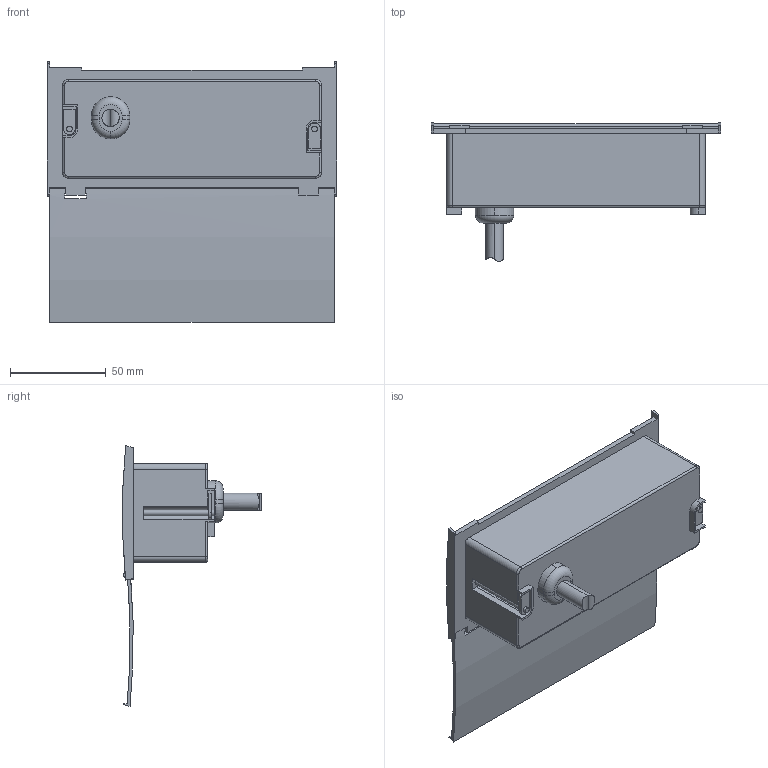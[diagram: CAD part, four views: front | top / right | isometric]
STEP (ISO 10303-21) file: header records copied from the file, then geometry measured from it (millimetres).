
FILE_DESCRIPTION (( 'STEP AP203' ), '1' );
FILE_NAME ('14-0937_KAPSA.STEP', '2026-01-19T05:39:22', ( '' ), ( '' ), 'SwSTEP 2.0', 'SolidWorks 2025', '' );
FILE_SCHEMA (( 'CONFIG_CONTROL_DESIGN' ));
Length unit declared in the file: millimetre
Products named in the file (1): 14-0937_KAPSA
Bounding box: 150.9 x 72.39 x 136 mm (x, y, z)
Volume: 311750.2 mm3; surface area: 62133.3 mm2
Topology: 1 solids, 1 shells, 228 faces, 601 edges, 392 vertices
Faces by surface type: plane 168, cylinder 53, torus 7
Entity records: 7169 total; most frequent: CARTESIAN_POINT 1304, ORIENTED_EDGE 1202, DIRECTION 1198, EDGE_CURVE 601, VECTOR 458, LINE 458, VERTEX_POINT 392, AXIS2_PLACEMENT_3D 370
